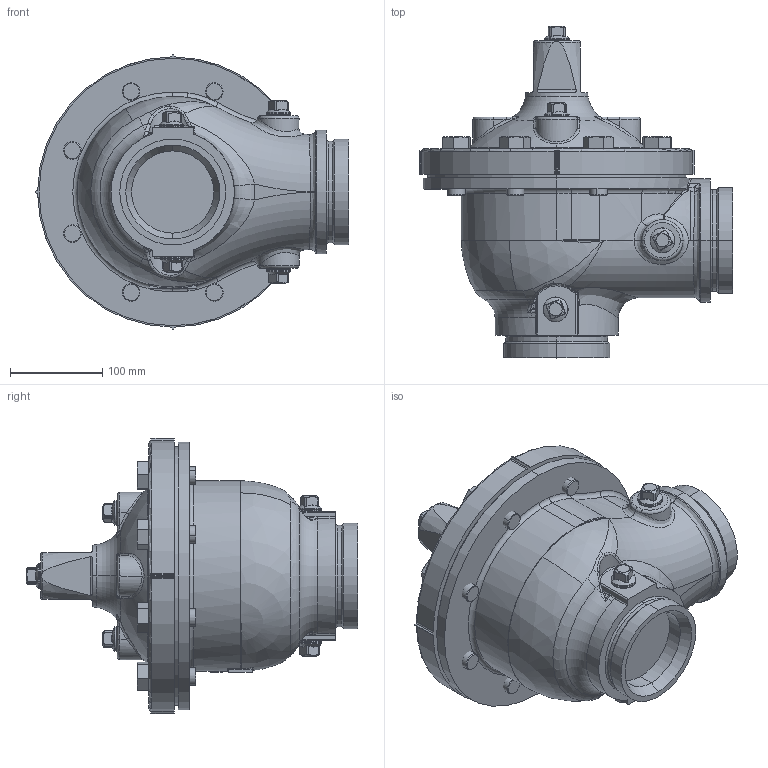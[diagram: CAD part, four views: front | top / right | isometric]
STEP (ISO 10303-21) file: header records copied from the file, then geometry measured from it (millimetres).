
FILE_DESCRIPTION (( 'STEP AP203' ), '1' );
FILE_NAME ('4in 2100-01 Main Valve, 300VA.STEP', '2023-11-07T20:36:11', ( '' ), ( '' ), 'SwSTEP 2.0', 'SolidWorks 2022', '' );
FILE_SCHEMA (( 'CONFIG_CONTROL_DESIGN' ));
Length unit declared in the file: inch
Products named in the file (5): 4in 2100-01 Main Valve, 300VA; 4in Cover (no core)_Default DI; 4in Body 2100 300V_DUCTILE IRON; Bolt .750-10 UNC  (67609)_2   67609-05H; .750 NPT PIPE PLUG (67660)_Default STEEL, CAD PL
Assembly tree (17 placements, depth 2):
  4in 2100-01 Main Valve, 300VA
    4in Body 2100 300V_DUCTILE IRON
    4in Cover (no core)_Default DI
    .750 NPT PIPE PLUG (67660)_Default STEEL, CAD PL  x7
    Bolt .750-10 UNC  (67609)_2   67609-05H  x8
Bounding box: 339.34 x 358.85 x 297.69 mm (x, y, z)
Volume: 9348917.5 mm3; surface area: 691228.8 mm2
Topology: 18 solids, 18 shells, 1420 faces, 3223 edges, 1816 vertices
Faces by surface type: cone 438, bspline 294, cylinder 240, plane 229, torus 140, sphere 79
Entity records: 30905 total; most frequent: CARTESIAN_POINT 15773, ORIENTED_EDGE 3178, DIRECTION 2747, EDGE_CURVE 1589, AXIS2_PLACEMENT_3D 1196, VERTEX_POINT 959, EDGE_LOOP 738, CIRCLE 707
